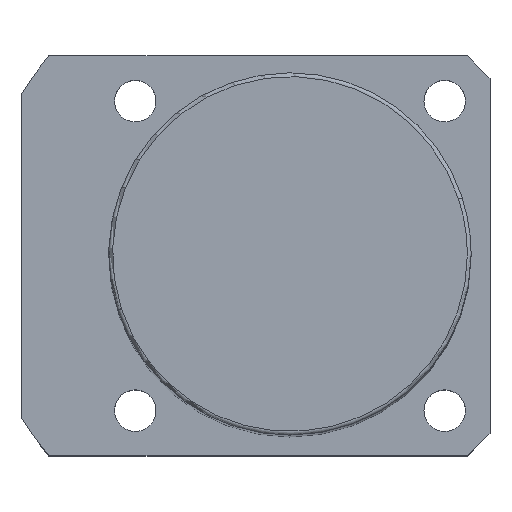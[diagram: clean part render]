
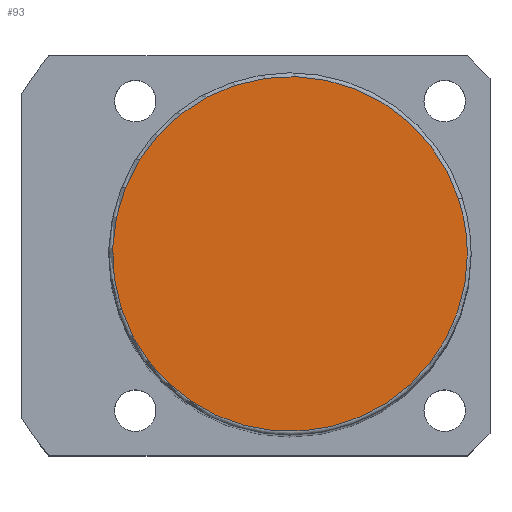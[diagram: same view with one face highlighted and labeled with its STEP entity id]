
A CAD part, top view. The second image highlights one B-rep face of the part: STEP entity #93.
In plain terms, the highlighted planar face has unit normal (0, 0, 1).
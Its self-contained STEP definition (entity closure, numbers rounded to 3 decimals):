
#16=CARTESIAN_POINT('',(22.35,7.262,154.0));
#17=VERTEX_POINT('',#16);
#45=CARTESIAN_POINT('',(-22.35,-7.262,154.0));
#46=VERTEX_POINT('',#45);
#54=CARTESIAN_POINT('',(0.0,0.0,154.0));
#55=DIRECTION('',(0.0,0.0,1.0));
#56=DIRECTION('',(1.0,0.0,0.0));
#57=AXIS2_PLACEMENT_3D('',#54,#55,#56);
#58=CIRCLE('',#57,23.5);
#59=EDGE_CURVE('no 890',#17,#46,#58,.T.);
#69=CARTESIAN_POINT('',(23.5,0.0,154.0));
#70=VERTEX_POINT('',#69);
#71=CARTESIAN_POINT('',(0.0,0.0,154.0));
#72=DIRECTION('',(0.0,0.0,1.0));
#73=DIRECTION('',(1.0,0.0,0.0));
#74=AXIS2_PLACEMENT_3D('',#71,#72,#73);
#75=CIRCLE('',#74,23.5);
#76=EDGE_CURVE('no 899',#70,#17,#75,.T.);
#77=ORIENTED_EDGE('',*,*,#76,.T.);
#78=ORIENTED_EDGE('',*,*,#59,.T.);
#79=CARTESIAN_POINT('',(0.0,0.0,154.0));
#80=DIRECTION('',(0.0,0.0,1.0));
#81=DIRECTION('',(1.0,0.0,0.0));
#82=AXIS2_PLACEMENT_3D('',#79,#80,#81);
#83=CIRCLE('',#82,23.5);
#84=EDGE_CURVE('no 905',#46,#70,#83,.T.);
#85=ORIENTED_EDGE('',*,*,#84,.T.);
#86=EDGE_LOOP('',(#77,#78,#85));
#87=FACE_OUTER_BOUND('',#86,.T.);
#88=CARTESIAN_POINT('',(0.0,0.0,154.0));
#89=DIRECTION('',(0.0,0.0,1.0));
#90=DIRECTION('',(1.0,0.0,0.0));
#91=AXIS2_PLACEMENT_3D('',#88,#89,#90);
#92=PLANE('',#91);
#93=ADVANCED_FACE('no 892',(#87),#92,.T.);
